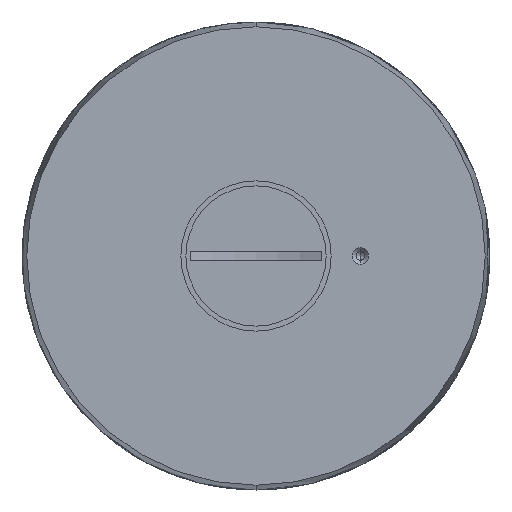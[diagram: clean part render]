
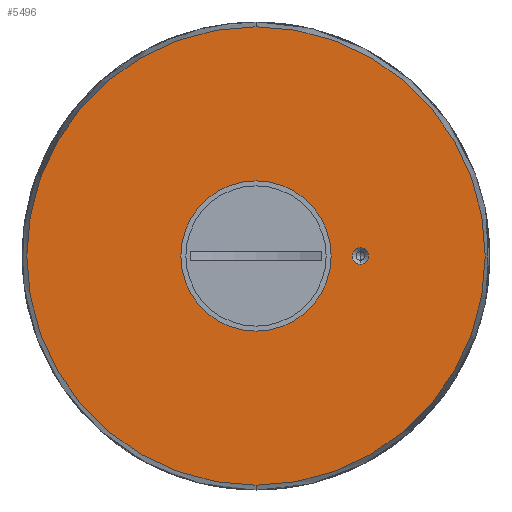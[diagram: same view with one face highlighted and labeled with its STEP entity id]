
A CAD part, front view. The second image highlights one B-rep face of the part: STEP entity #5496.
In plain terms, the highlighted planar face has unit normal (0, -1, 0).
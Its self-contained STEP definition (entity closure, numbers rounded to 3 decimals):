
#400 = DIRECTION ( 'NONE',  ( 0., 1., 0. ) ) ;
#751 = VERTEX_POINT ( 'NONE', #7515 ) ;
#801 = AXIS2_PLACEMENT_3D ( 'NONE', #4738, #400, #2242 ) ;
#834 = DIRECTION ( 'NONE',  ( 0., 0., 1. ) ) ;
#844 = VERTEX_POINT ( 'NONE', #8973 ) ;
#875 = DIRECTION ( 'NONE',  ( 0., 1., 0. ) ) ;
#1053 = EDGE_CURVE ( 'NONE', #844, #10968, #8674, .T. ) ;
#1225 = ORIENTED_EDGE ( 'NONE', *, *, #10113, .T. ) ;
#1437 = ORIENTED_EDGE ( 'NONE', *, *, #1053, .F. ) ;
#1557 = AXIS2_PLACEMENT_3D ( 'NONE', #3976, #5758, #9354 ) ;
#1780 = CARTESIAN_POINT ( 'NONE',  ( 20.83, 0., 0. ) ) ;
#2132 = DIRECTION ( 'NONE',  ( 0., 0., 1. ) ) ;
#2242 = DIRECTION ( 'NONE',  ( 0., 0., 1. ) ) ;
#2990 = EDGE_CURVE ( 'NONE', #9301, #751, #3460, .T. ) ;
#3002 = EDGE_CURVE ( 'NONE', #751, #9301, #8027, .T. ) ;
#3140 = DIRECTION ( 'NONE',  ( 0., 0., -1. ) ) ;
#3342 = CIRCLE ( 'NONE', #4860, 1.64 ) ;
#3460 = CIRCLE ( 'NONE', #7472, 45.785 ) ;
#3615 = PLANE ( 'NONE',  #801 ) ;
#3831 = CIRCLE ( 'NONE', #5335, 1.64 ) ;
#3976 = CARTESIAN_POINT ( 'NONE',  ( 0., 0., 0. ) ) ;
#4421 = EDGE_CURVE ( 'NONE', #10968, #844, #5370, .T. ) ;
#4432 = FACE_BOUND ( 'NONE', #6512, .T. ) ;
#4450 = DIRECTION ( 'NONE',  ( 0., 1., 0. ) ) ;
#4497 = FACE_OUTER_BOUND ( 'NONE', #11139, .T. ) ;
#4731 = CARTESIAN_POINT ( 'NONE',  ( 0., 0., 0. ) ) ;
#4738 = CARTESIAN_POINT ( 'NONE',  ( 0., 0., 0. ) ) ;
#4773 = ORIENTED_EDGE ( 'NONE', *, *, #2990, .F. ) ;
#4860 = AXIS2_PLACEMENT_3D ( 'NONE', #1780, #4450, #834 ) ;
#5105 = CARTESIAN_POINT ( 'NONE',  ( 0., 0., -45.785 ) ) ;
#5335 = AXIS2_PLACEMENT_3D ( 'NONE', #6066, #875, #10762 ) ;
#5370 = CIRCLE ( 'NONE', #10711, 15. ) ;
#5496 = ADVANCED_FACE ( 'NONE', ( #4432, #11720, #4497 ), #3615, .F. ) ;
#5626 = DIRECTION ( 'NONE',  ( 0., 0., -1. ) ) ;
#5758 = DIRECTION ( 'NONE',  ( 0., 1., 0. ) ) ;
#5820 = DIRECTION ( 'NONE',  ( 0., 1., 0. ) ) ;
#5863 = DIRECTION ( 'NONE',  ( 0., -1., 0. ) ) ;
#6066 = CARTESIAN_POINT ( 'NONE',  ( 20.83, 0., 0. ) ) ;
#6422 = CARTESIAN_POINT ( 'NONE',  ( 20.83, 0., -1.64 ) ) ;
#6512 = EDGE_LOOP ( 'NONE', ( #9569, #1225 ) ) ;
#6845 = ORIENTED_EDGE ( 'NONE', *, *, #3002, .F. ) ;
#6850 = CARTESIAN_POINT ( 'NONE',  ( 0., 0., 0. ) ) ;
#7057 = CARTESIAN_POINT ( 'NONE',  ( 0., 0., 15. ) ) ;
#7472 = AXIS2_PLACEMENT_3D ( 'NONE', #6850, #5820, #2132 ) ;
#7515 = CARTESIAN_POINT ( 'NONE',  ( 0., 0., 45.785 ) ) ;
#8027 = CIRCLE ( 'NONE', #1557, 45.785 ) ;
#8674 = CIRCLE ( 'NONE', #10211, 15. ) ;
#8973 = CARTESIAN_POINT ( 'NONE',  ( 0., 0., -15. ) ) ;
#9056 = EDGE_LOOP ( 'NONE', ( #1437, #9729 ) ) ;
#9301 = VERTEX_POINT ( 'NONE', #5105 ) ;
#9354 = DIRECTION ( 'NONE',  ( 0., 0., 1. ) ) ;
#9356 = CARTESIAN_POINT ( 'NONE',  ( 0., 0., 0. ) ) ;
#9569 = ORIENTED_EDGE ( 'NONE', *, *, #11548, .T. ) ;
#9729 = ORIENTED_EDGE ( 'NONE', *, *, #4421, .F. ) ;
#10113 = EDGE_CURVE ( 'NONE', #11122, #10344, #3831, .T. ) ;
#10211 = AXIS2_PLACEMENT_3D ( 'NONE', #4731, #5863, #5626 ) ;
#10344 = VERTEX_POINT ( 'NONE', #6422 ) ;
#10711 = AXIS2_PLACEMENT_3D ( 'NONE', #9356, #11312, #3140 ) ;
#10762 = DIRECTION ( 'NONE',  ( 0., 0., 1. ) ) ;
#10968 = VERTEX_POINT ( 'NONE', #7057 ) ;
#10979 = CARTESIAN_POINT ( 'NONE',  ( 20.83, 0., 1.64 ) ) ;
#11122 = VERTEX_POINT ( 'NONE', #10979 ) ;
#11139 = EDGE_LOOP ( 'NONE', ( #4773, #6845 ) ) ;
#11312 = DIRECTION ( 'NONE',  ( 0., -1., 0. ) ) ;
#11548 = EDGE_CURVE ( 'NONE', #10344, #11122, #3342, .T. ) ;
#11720 = FACE_BOUND ( 'NONE', #9056, .T. ) ;
